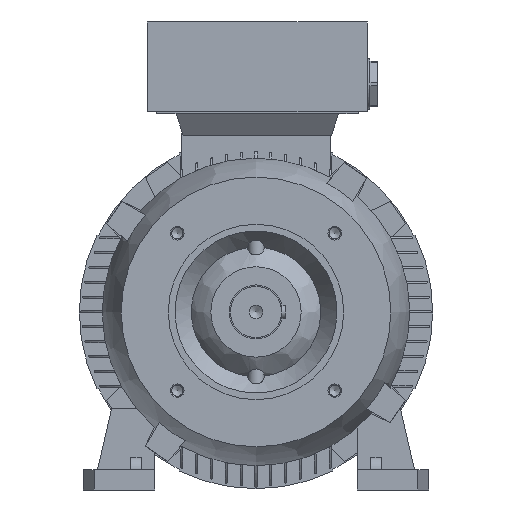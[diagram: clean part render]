
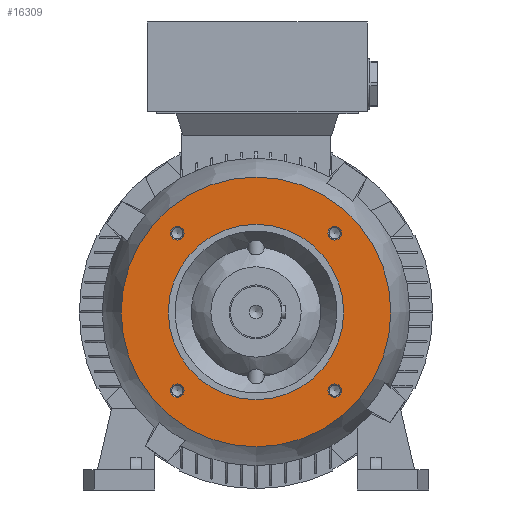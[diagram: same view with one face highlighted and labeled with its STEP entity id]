
A CAD part, left-side view. The second image highlights one B-rep face of the part: STEP entity #16309.
In plain terms, the highlighted planar face has unit normal (-1, 0, 0).
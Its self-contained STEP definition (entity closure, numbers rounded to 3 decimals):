
#465 = CARTESIAN_POINT ( 'NONE',  ( -50.5, 58.336, -53.336 ) ) ;
#1626 = DIRECTION ( 'NONE',  ( -1., 0., 0. ) ) ;
#2496 = CARTESIAN_POINT ( 'NONE',  ( -50.5, -58.336, 63.336 ) ) ;
#2834 = ORIENTED_EDGE ( 'NONE', *, *, #12669, .T. ) ;
#2895 = CARTESIAN_POINT ( 'NONE',  ( -50.5, 58.336, -58.336 ) ) ;
#3516 = CARTESIAN_POINT ( 'NONE',  ( -50.5, -58.336, 58.336 ) ) ;
#3913 = EDGE_LOOP ( 'NONE', ( #9342 ) ) ;
#4041 = EDGE_LOOP ( 'NONE', ( #2834 ) ) ;
#4098 = EDGE_LOOP ( 'NONE', ( #19895 ) ) ;
#4204 = EDGE_LOOP ( 'NONE', ( #15895 ) ) ;
#4976 = DIRECTION ( 'NONE',  ( 0., 0., 1. ) ) ;
#5232 = DIRECTION ( 'NONE',  ( 1., 0., 0. ) ) ;
#5568 = DIRECTION ( 'NONE',  ( 0., 0., 1. ) ) ;
#5644 = CARTESIAN_POINT ( 'NONE',  ( -50.5, 0., 0. ) ) ;
#5690 = EDGE_LOOP ( 'NONE', ( #14598 ) ) ;
#6326 = AXIS2_PLACEMENT_3D ( 'NONE', #5644, #19073, #7581 ) ;
#6616 = AXIS2_PLACEMENT_3D ( 'NONE', #3516, #17181, #5568 ) ;
#6792 = AXIS2_PLACEMENT_3D ( 'NONE', #22803, #1626, #15355 ) ;
#7382 = EDGE_LOOP ( 'NONE', ( #9627 ) ) ;
#7581 = DIRECTION ( 'NONE',  ( 0., 0., 1. ) ) ;
#8248 = AXIS2_PLACEMENT_3D ( 'NONE', #16829, #5232, #18680 ) ;
#8347 = CARTESIAN_POINT ( 'NONE',  ( -50.5, -58.336, -58.336 ) ) ;
#8473 = CARTESIAN_POINT ( 'NONE',  ( -50.5, 0., -100. ) ) ;
#9342 = ORIENTED_EDGE ( 'NONE', *, *, #12636, .T. ) ;
#9410 = AXIS2_PLACEMENT_3D ( 'NONE', #8347, #21690, #10328 ) ;
#9558 = AXIS2_PLACEMENT_3D ( 'NONE', #2895, #16589, #4976 ) ;
#9627 = ORIENTED_EDGE ( 'NONE', *, *, #12820, .T. ) ;
#9938 = DIRECTION ( 'NONE',  ( 1., 0., 0. ) ) ;
#10328 = DIRECTION ( 'NONE',  ( 0., 0., 1. ) ) ;
#11790 = CIRCLE ( 'NONE', #6326, 65. ) ;
#12096 = CIRCLE ( 'NONE', #6616, 5. ) ;
#12278 = CARTESIAN_POINT ( 'NONE',  ( -50.5, -58.336, -53.336 ) ) ;
#12636 = EDGE_CURVE ( 'NONE', #17319, #17319, #13573, .T. ) ;
#12669 = EDGE_CURVE ( 'NONE', #17314, #17314, #13059, .T. ) ;
#12717 = EDGE_CURVE ( 'NONE', #17289, #17289, #12741, .T. ) ;
#12741 = CIRCLE ( 'NONE', #8248, 5. ) ;
#12783 = EDGE_CURVE ( 'NONE', #17267, #17267, #12096, .T. ) ;
#12820 = EDGE_CURVE ( 'NONE', #17027, #17027, #11790, .T. ) ;
#13059 = CIRCLE ( 'NONE', #9558, 5. ) ;
#13573 = CIRCLE ( 'NONE', #9410, 5. ) ;
#14251 = CARTESIAN_POINT ( 'NONE',  ( -50.5, 58.336, 63.336 ) ) ;
#14598 = ORIENTED_EDGE ( 'NONE', *, *, #17544, .F. ) ;
#15355 = DIRECTION ( 'NONE',  ( 0., 0., 1. ) ) ;
#15895 = ORIENTED_EDGE ( 'NONE', *, *, #12783, .T. ) ;
#16204 = CARTESIAN_POINT ( 'NONE',  ( -50.5, 0., 65. ) ) ;
#16309 = ADVANCED_FACE ( 'NONE', ( #17259, #17515, #17849, #17237, #17230, #17211 ), #17236, .T. ) ;
#16589 = DIRECTION ( 'NONE',  ( 1., 0., 0. ) ) ;
#16628 = VERTEX_POINT ( 'NONE', #8473 ) ;
#16829 = CARTESIAN_POINT ( 'NONE',  ( -50.5, 58.336, 58.336 ) ) ;
#17027 = VERTEX_POINT ( 'NONE', #16204 ) ;
#17181 = DIRECTION ( 'NONE',  ( 1., 0., 0. ) ) ;
#17211 = FACE_BOUND ( 'NONE', #3913, .T. ) ;
#17230 = FACE_BOUND ( 'NONE', #4041, .T. ) ;
#17236 = PLANE ( 'NONE',  #6792 ) ;
#17237 = FACE_BOUND ( 'NONE', #4098, .T. ) ;
#17259 = FACE_BOUND ( 'NONE', #7382, .T. ) ;
#17267 = VERTEX_POINT ( 'NONE', #2496 ) ;
#17289 = VERTEX_POINT ( 'NONE', #14251 ) ;
#17314 = VERTEX_POINT ( 'NONE', #465 ) ;
#17319 = VERTEX_POINT ( 'NONE', #12278 ) ;
#17515 = FACE_OUTER_BOUND ( 'NONE', #5690, .T. ) ;
#17544 = EDGE_CURVE ( 'NONE', #16628, #16628, #21746, .T. ) ;
#17849 = FACE_BOUND ( 'NONE', #4204, .T. ) ;
#18680 = DIRECTION ( 'NONE',  ( 0., 0., 1. ) ) ;
#19073 = DIRECTION ( 'NONE',  ( 1., 0., 0. ) ) ;
#19895 = ORIENTED_EDGE ( 'NONE', *, *, #12717, .T. ) ;
#21321 = CARTESIAN_POINT ( 'NONE',  ( -50.5, 0., 0. ) ) ;
#21690 = DIRECTION ( 'NONE',  ( 1., 0., 0. ) ) ;
#21746 = CIRCLE ( 'NONE', #23527, 100. ) ;
#22803 = CARTESIAN_POINT ( 'NONE',  ( -50.5, 0., 82.5 ) ) ;
#23202 = DIRECTION ( 'NONE',  ( 0., 0., -1. ) ) ;
#23527 = AXIS2_PLACEMENT_3D ( 'NONE', #21321, #9938, #23202 ) ;
